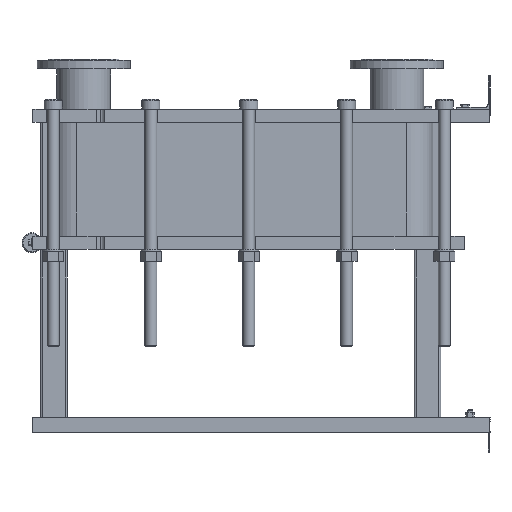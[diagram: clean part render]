
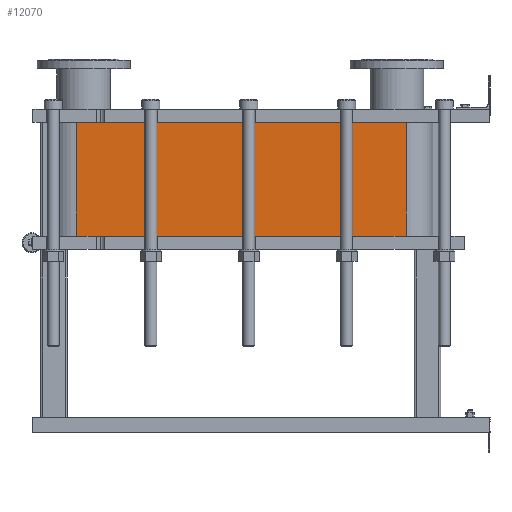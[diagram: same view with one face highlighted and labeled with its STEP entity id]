
A CAD part, left-side view. The second image highlights one B-rep face of the part: STEP entity #12070.
In plain terms, the highlighted planar face has unit normal (-1, 0, 0).
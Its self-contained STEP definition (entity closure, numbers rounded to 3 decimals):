
#1064=LINE('',#21140,#2164);
#1065=LINE('',#21144,#2165);
#1066=LINE('',#21146,#2166);
#1067=LINE('',#21147,#2167);
#2164=VECTOR('',#15790,10.);
#2165=VECTOR('',#15795,10.);
#2166=VECTOR('',#15796,10.);
#2167=VECTOR('',#15797,10.);
#3304=FACE_OUTER_BOUND('',#4091,.T.);
#4091=EDGE_LOOP('',(#9793,#9794,#9795,#9796));
#5677=VERTEX_POINT('',#21137);
#5678=VERTEX_POINT('',#21139);
#5679=VERTEX_POINT('',#21143);
#5680=VERTEX_POINT('',#21145);
#7118=EDGE_CURVE('',#5678,#5677,#1064,.T.);
#7120=EDGE_CURVE('',#5677,#5679,#1065,.T.);
#7121=EDGE_CURVE('',#5680,#5679,#1066,.T.);
#7122=EDGE_CURVE('',#5680,#5678,#1067,.T.);
#9793=ORIENTED_EDGE('',*,*,#7120,.T.);
#9794=ORIENTED_EDGE('',*,*,#7121,.F.);
#9795=ORIENTED_EDGE('',*,*,#7122,.T.);
#9796=ORIENTED_EDGE('',*,*,#7118,.T.);
#11441=PLANE('',#13191);
#12070=ADVANCED_FACE('',(#3304),#11441,.T.);
#13191=AXIS2_PLACEMENT_3D('',#21142,#15793,#15794);
#15790=DIRECTION('',(0.,0.,-1.));
#15793=DIRECTION('center_axis',(-1.,0.,0.));
#15794=DIRECTION('ref_axis',(0.,1.,0.));
#15795=DIRECTION('',(0.,-1.,0.));
#15796=DIRECTION('',(0.,0.,-1.));
#15797=DIRECTION('',(0.,1.,0.));
#21137=CARTESIAN_POINT('',(-248.152,1243.818,-341.55));
#21139=CARTESIAN_POINT('',(-248.152,1243.818,0.));
#21140=CARTESIAN_POINT('',(-248.152,1243.818,0.));
#21142=CARTESIAN_POINT('Origin',(-248.152,251.818,0.));
#21143=CARTESIAN_POINT('',(-248.152,251.818,-341.55));
#21144=CARTESIAN_POINT('',(-248.152,499.818,-341.55));
#21145=CARTESIAN_POINT('',(-248.152,251.818,0.));
#21146=CARTESIAN_POINT('',(-248.152,251.818,0.));
#21147=CARTESIAN_POINT('',(-248.152,251.818,0.));
